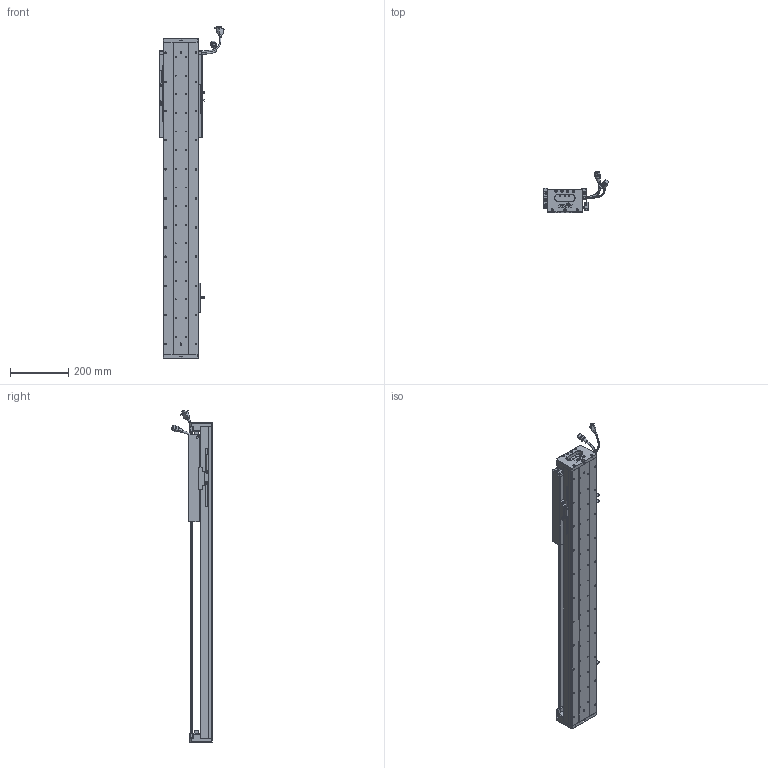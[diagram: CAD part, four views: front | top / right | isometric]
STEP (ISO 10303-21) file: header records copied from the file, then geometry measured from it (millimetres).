
FILE_DESCRIPTION (( 'STEP AP203' ), '1' );
FILE_NAME ('Z4-RY120D-1-L500-B-K.SLDASM_0700.step', '2021-05-17T06:06:27', ( '盈信电脑' ), ( '东莞市道滘镇水果街19号' ), 'SwSTEP 2.0', 'SolidWorks 2016', '' );
FILE_SCHEMA (( 'CONFIG_CONTROL_DESIGN' ));
Length unit declared in the file: millimetre
Products named in the file (37): 榋妏寠巭燃_暯_M2_2; 140蚥薯蝶輸; Z4-RY120-500-倰第菁釱_0700; PBU_SHEET; 672嫖萇羲壽假蚾釱; SHIELDPLATE; Z-RY120D詩湍奻揤裔; SCALE-Part-2; SCREW-M1.6-3; SEAL; LABEL; HARNESS; SCREW-M1.7-1; 080黍杅芛假蚾釱21遴; COVER-Part-1; SCREW-M1.6; COVER; SCREW-M1.7; SCALE-Part-1; HOLDER0; 120-Z-臏賑輸盄裔(21遴); SEAL-Part-1; LABEL-Part-1; 140雄赽晤鎢ん堤盄; SCREW-M1.6-1; RY100FB-遵嫖萇覜茼え; SCREW-M1.6-2; Z-RY120D詩湍狟揤裔; SCALE; HARNESS-Part-2; Z4-RY120D-1-L500-B-K.SLDASM_0700; HARNESS-Part-1; 覜茼ん672; Z-120詩湍傷裔啣; PSLH080_PSLF2; Z4-RY120铝滑块（21款）; Z4-RY120-L500詩湍100mm遵_0700
Assembly tree (43 placements, depth 4):
  Z4-RY120D-1-L500-B-K.SLDASM_0700
    Z4-RY120-500-倰第菁釱_0700
    覜茼ん672  x3
    672嫖萇羲壽假蚾釱  x2
    Z4-RY120铝滑块（21款）
    PSLH080_PSLF2
      SCALE
        SCALE-Part-1
        SCALE-Part-2
      HARNESS
        HARNESS-Part-1
        HARNESS-Part-2
      LABEL
        LABEL-Part-1
      COVER
        COVER-Part-1
      SEAL
        SEAL-Part-1
      榋妏寠巭燃_暯_M2_2
      SHIELDPLATE
      SCREW-M1.7
      SCREW-M1.7-1
      PBU_SHEET
      SCREW-M1.6
      SCREW-M1.6-1
      SCREW-M1.6-2
      SCREW-M1.6-3
      HOLDER0
    080黍杅芛假蚾釱21遴
    120-Z-臏賑輸盄裔(21遴)
    140雄赽晤鎢ん堤盄
    140蚥薯蝶輸  x2
    RY100FB-遵嫖萇覜茼え
    Z-120詩湍傷裔啣  x2
    Z-RY120D詩湍奻揤裔  x2
    Z-RY120D詩湍狟揤裔  x2
    Z4-RY120-L500詩湍100mm遵_0700
Bounding box: 222.87 x 140.94 x 1139 mm (x, y, z)
Volume: 3364148 mm3; surface area: 1091151.3 mm2
Topology: 38 solids, 38 shells, 2855 faces, 7732 edges, 4886 vertices
Faces by surface type: cylinder 1324, plane 1129, cone 280, torus 69, bspline 53
Entity records: 86431 total; most frequent: CARTESIAN_POINT 23322, ORIENTED_EDGE 12432, DIRECTION 12164, EDGE_CURVE 6216, AXIS2_PLACEMENT_3D 4456, VERTEX_POINT 4006, VECTOR 3252, LINE 3252
